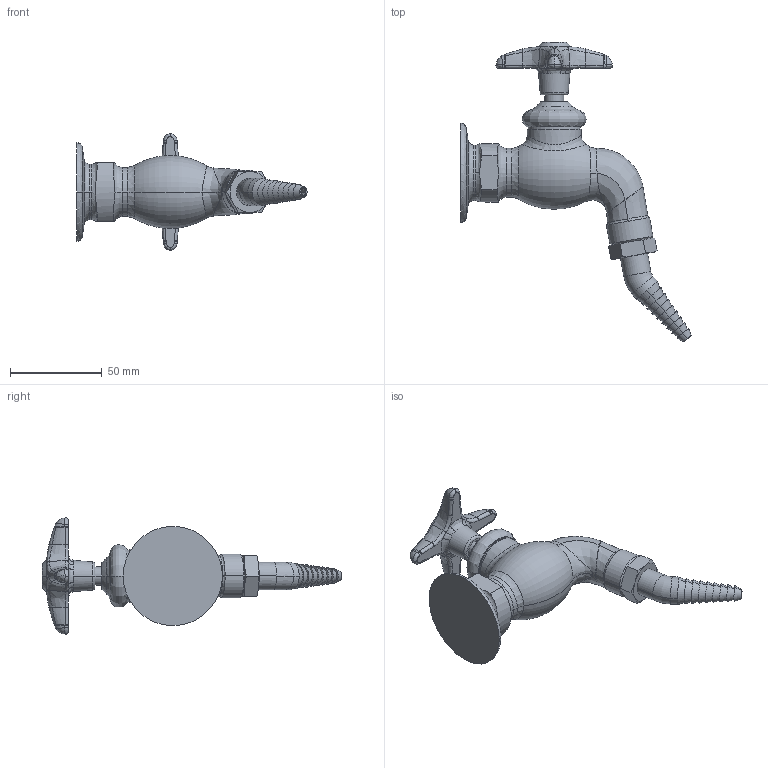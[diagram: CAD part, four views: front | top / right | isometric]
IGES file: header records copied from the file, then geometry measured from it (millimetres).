
Start section:  PTC IGES file: LWV3-B21.igs
Global section: file name: LWV3-B21.igs; native system: Creo Parametric by PTC Inc.; preprocessor: 2014500; author: usch_engrender; organization: Unknown; date: 20150910.121410; units: inch
Bounding box: 125.3 x 162.98 x 63.42 mm (x, y, z)
Volume: 117383.9 mm3; surface area: 30941.4 mm2
Topology: 1 solids, 5 shells, 376 faces, 847 edges, 500 vertices
Faces by surface type: bspline 217, revolution 159
